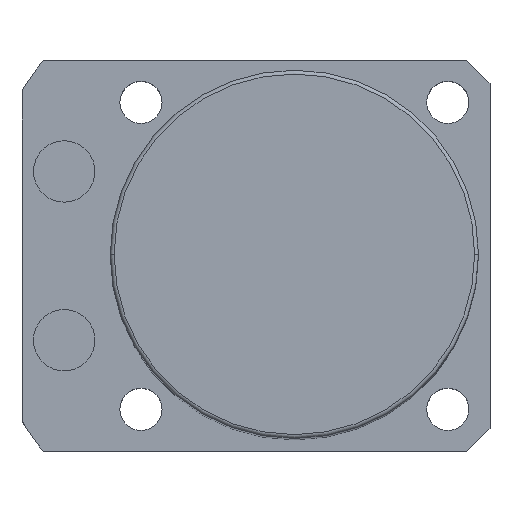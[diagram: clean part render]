
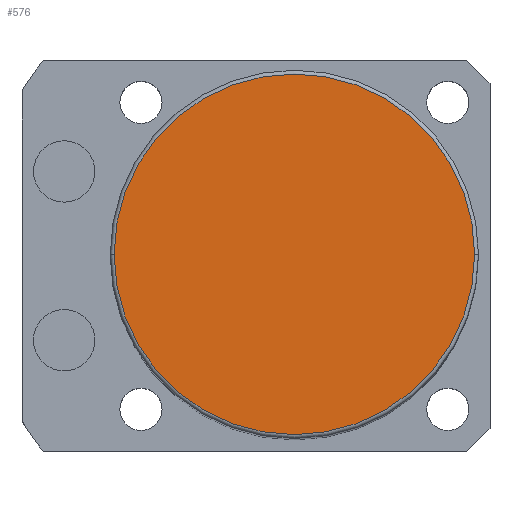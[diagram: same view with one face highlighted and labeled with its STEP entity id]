
A CAD part, top view. The second image highlights one B-rep face of the part: STEP entity #576.
In plain terms, the highlighted planar face has unit normal (0, 0, 1).
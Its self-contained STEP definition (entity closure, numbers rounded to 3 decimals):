
#310 = CIRCLE ( 'NONE', #2357, 23.5 ) ;
#486 = VERTEX_POINT ( 'NONE', #2043 ) ;
#494 = CARTESIAN_POINT ( 'NONE',  ( 0., 0., 126. ) ) ;
#576 = ADVANCED_FACE ( 'NONE', ( #1013 ), #1382, .T. ) ;
#632 = AXIS2_PLACEMENT_3D ( 'NONE', #676, #1049, #1442 ) ;
#676 = CARTESIAN_POINT ( 'NONE',  ( 0., 0., 126. ) ) ;
#804 = CIRCLE ( 'NONE', #632, 23.5 ) ;
#811 = ORIENTED_EDGE ( 'NONE', *, *, #1562, .T. ) ;
#1013 = FACE_OUTER_BOUND ( 'NONE', #2338, .T. ) ;
#1049 = DIRECTION ( 'NONE',  ( 0., 0., 1. ) ) ;
#1124 = AXIS2_PLACEMENT_3D ( 'NONE', #1799, #2161, #1203 ) ;
#1203 = DIRECTION ( 'NONE',  ( 1., 0., 0. ) ) ;
#1382 = PLANE ( 'NONE',  #1124 ) ;
#1416 = DIRECTION ( 'NONE',  ( 1., 0., 0. ) ) ;
#1442 = DIRECTION ( 'NONE',  ( 1., 0., 0. ) ) ;
#1562 = EDGE_CURVE ( 'NONE', #2428, #486, #804, .T. ) ;
#1799 = CARTESIAN_POINT ( 'NONE',  ( 0., 0., 126. ) ) ;
#1805 = ORIENTED_EDGE ( 'NONE', *, *, #2494, .T. ) ;
#2043 = CARTESIAN_POINT ( 'NONE',  ( 23.5, 0., 126. ) ) ;
#2161 = DIRECTION ( 'NONE',  ( 0., 0., 1. ) ) ;
#2223 = CARTESIAN_POINT ( 'NONE',  ( -23.5, 0., 126. ) ) ;
#2254 = DIRECTION ( 'NONE',  ( 0., 0., 1. ) ) ;
#2338 = EDGE_LOOP ( 'NONE', ( #1805, #811 ) ) ;
#2357 = AXIS2_PLACEMENT_3D ( 'NONE', #494, #2254, #1416 ) ;
#2428 = VERTEX_POINT ( 'NONE', #2223 ) ;
#2494 = EDGE_CURVE ( 'NONE', #486, #2428, #310, .T. ) ;
